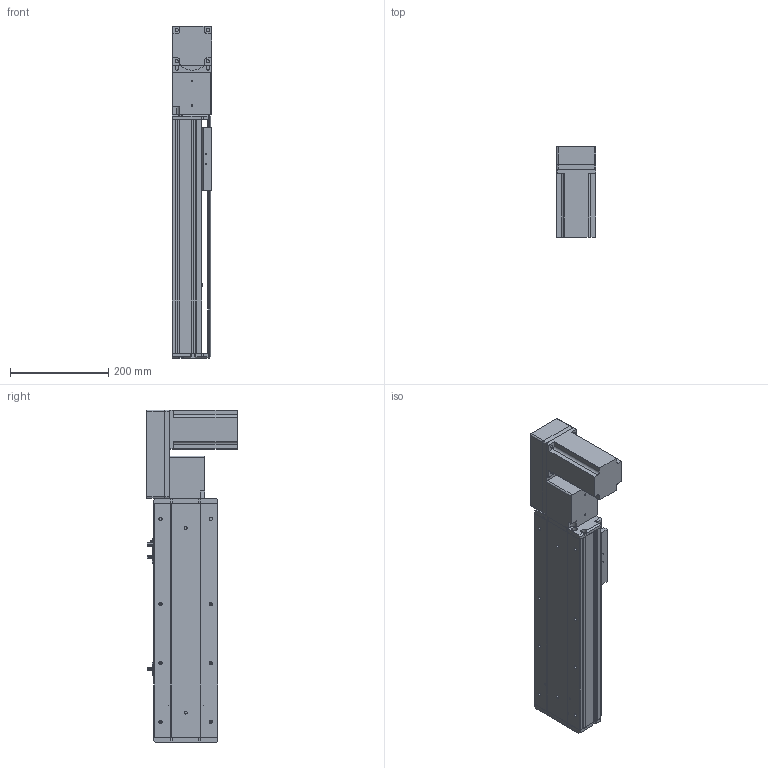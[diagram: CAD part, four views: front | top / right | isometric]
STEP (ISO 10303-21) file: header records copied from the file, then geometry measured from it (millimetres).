
FILE_DESCRIPTION (( 'STEP AP214' ), '1' );
FILE_NAME ('KSD130B-S250-MRB-CM .STEP', '2019-11-15T05:51:45', ( '微软用户' ), ( '微软中国' ), 'SwSTEP 2.0', 'SolidWorks 2014', '' );
FILE_SCHEMA (( 'AUTOMOTIVE_DESIGN' ));
Length unit declared in the file: millimetre
Products named in the file (12): 130宽底板半封闭同步带-250行程; KSD130B-S250-MRB-CM ; 台达ECMA－C20807AS伺服电机; 130宽模组保护罩上下左右折-同步带; 130宽模组马达安装板连板左右折同步带; 覜茼え100遵圉猾敕; U倰嫖萇EEㄜSX672; 130宽盖板半封闭同步带-250行程; 130宽马达安装板同步带右-改镜向_默认<按加工>; 130宽马达安装板同步带半封闭; 130宽同步带安装座半封闭; 130宽端盖同步带半封闭
Assembly tree (13 placements, depth 2):
  KSD130B-S250-MRB-CM 
    130宽底板半封闭同步带-250行程
    130宽端盖同步带半封闭
    130宽同步带安装座半封闭
    130宽马达安装板同步带半封闭
    130宽马达安装板同步带右-改镜向_默认<按加工>
    130宽盖板半封闭同步带-250行程
    U倰嫖萇EEㄜSX672  x3
    覜茼え100遵圉猾敕
    130宽模组马达安装板连板左右折同步带
    130宽模组保护罩上下左右折-同步带
    台达ECMA－C20807AS伺服电机
Bounding box: 81 x 184.8 x 677 mm (x, y, z)
Volume: 2965901.6 mm3; surface area: 740889.9 mm2
Topology: 14 solids, 14 shells, 1345 faces, 3741 edges, 2411 vertices
Faces by surface type: cylinder 620, plane 598, cone 127
Entity records: 42151 total; most frequent: CARTESIAN_POINT 7336, DIRECTION 6507, ORIENTED_EDGE 6214, EDGE_CURVE 3107, AXIS2_PLACEMENT_3D 2342, VERTEX_POINT 2035, LINE 1823, VECTOR 1823
